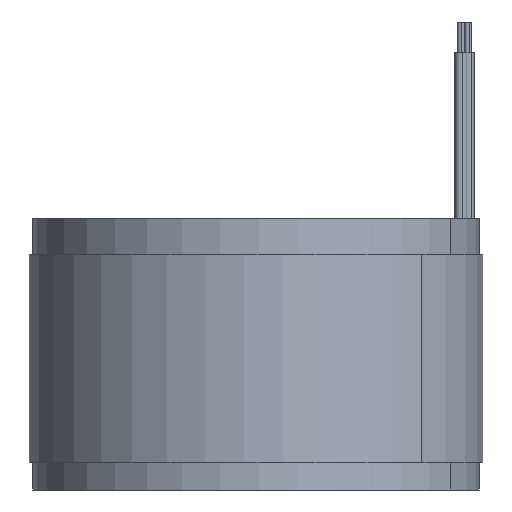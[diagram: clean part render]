
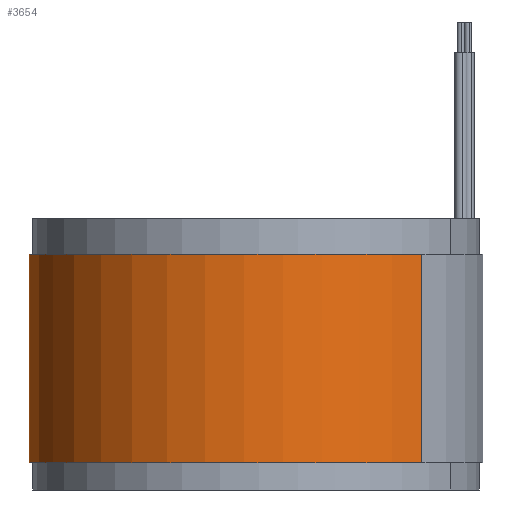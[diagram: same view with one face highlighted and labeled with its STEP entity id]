
A CAD part, front view. The second image highlights one B-rep face of the part: STEP entity #3654.
In plain terms, the highlighted cylindrical face has radius 30 mm (diameter 60 mm), a partial arc.
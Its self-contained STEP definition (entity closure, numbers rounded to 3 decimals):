
#328 = CARTESIAN_POINT ( 'NONE',  ( 21.912, -20.491, 27.5 ) ) ;
#449 = LINE ( 'NONE', #7804, #1167 ) ;
#879 = AXIS2_PLACEMENT_3D ( 'NONE', #7555, #1582, #1622 ) ;
#893 = EDGE_CURVE ( 'NONE', #4997, #6982, #449, .T. ) ;
#1064 = ORIENTED_EDGE ( 'NONE', *, *, #2389, .F. ) ;
#1167 = VECTOR ( 'NONE', #6329, 1000. ) ;
#1488 = CIRCLE ( 'NONE', #6361, 30. ) ;
#1582 = DIRECTION ( 'NONE',  ( 0., 0., -1. ) ) ;
#1622 = DIRECTION ( 'NONE',  ( -0.73, 0.683, 0. ) ) ;
#1741 = DIRECTION ( 'NONE',  ( 0.73, -0.683, 0. ) ) ;
#1882 = DIRECTION ( 'NONE',  ( 0., 0., 1. ) ) ;
#2067 = EDGE_LOOP ( 'NONE', ( #5777, #1064, #7281, #4745 ) ) ;
#2246 = VERTEX_POINT ( 'NONE', #6923 ) ;
#2389 = EDGE_CURVE ( 'NONE', #4997, #5925, #1488, .T. ) ;
#3126 = DIRECTION ( 'NONE',  ( 0., 0., 1. ) ) ;
#3370 = CIRCLE ( 'NONE', #4628, 30. ) ;
#3654 = ADVANCED_FACE ( 'NONE', ( #4987 ), #7636, .T. ) ;
#4031 = DIRECTION ( 'NONE',  ( 0., 0., -1. ) ) ;
#4078 = CARTESIAN_POINT ( 'NONE',  ( -21.912, 20.491, 0. ) ) ;
#4628 = AXIS2_PLACEMENT_3D ( 'NONE', #7852, #1882, #7760 ) ;
#4734 = CARTESIAN_POINT ( 'NONE',  ( 21.912, -20.491, 27.5 ) ) ;
#4745 = ORIENTED_EDGE ( 'NONE', *, *, #7587, .T. ) ;
#4987 = FACE_OUTER_BOUND ( 'NONE', #2067, .T. ) ;
#4997 = VERTEX_POINT ( 'NONE', #6187 ) ;
#5777 = ORIENTED_EDGE ( 'NONE', *, *, #7010, .F. ) ;
#5925 = VERTEX_POINT ( 'NONE', #328 ) ;
#6187 = CARTESIAN_POINT ( 'NONE',  ( -21.912, 20.491, 27.5 ) ) ;
#6329 = DIRECTION ( 'NONE',  ( 0., 0., -1. ) ) ;
#6361 = AXIS2_PLACEMENT_3D ( 'NONE', #6452, #3126, #1741 ) ;
#6452 = CARTESIAN_POINT ( 'NONE',  ( 0., 0., 27.5 ) ) ;
#6648 = LINE ( 'NONE', #4734, #7788 ) ;
#6923 = CARTESIAN_POINT ( 'NONE',  ( 21.912, -20.491, 0. ) ) ;
#6982 = VERTEX_POINT ( 'NONE', #4078 ) ;
#7010 = EDGE_CURVE ( 'NONE', #5925, #2246, #6648, .T. ) ;
#7281 = ORIENTED_EDGE ( 'NONE', *, *, #893, .T. ) ;
#7555 = CARTESIAN_POINT ( 'NONE',  ( 0., 0., 27.5 ) ) ;
#7587 = EDGE_CURVE ( 'NONE', #6982, #2246, #3370, .T. ) ;
#7636 = CYLINDRICAL_SURFACE ( 'NONE', #879, 30. ) ;
#7760 = DIRECTION ( 'NONE',  ( 0.73, -0.683, 0. ) ) ;
#7788 = VECTOR ( 'NONE', #4031, 1000. ) ;
#7804 = CARTESIAN_POINT ( 'NONE',  ( -21.912, 20.491, 27.5 ) ) ;
#7852 = CARTESIAN_POINT ( 'NONE',  ( 0., 0., 0. ) ) ;
